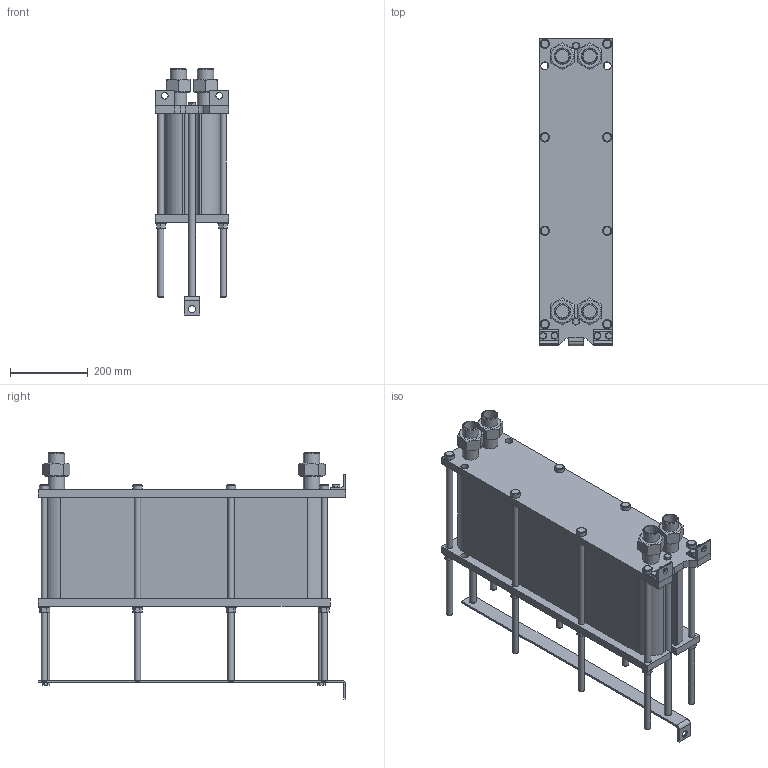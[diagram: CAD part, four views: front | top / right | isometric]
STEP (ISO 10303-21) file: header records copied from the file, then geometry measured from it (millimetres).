
FILE_DESCRIPTION(/* description */ (''),/* implementation_level */ '2;1');
FILE_NAME(/* name */ 'C:\Users\zhuro\Desktop\ENCO\TO\ЭН-008\ЭН-0,5-008-84-1.stp',/* time_stamp */ '2022-06-06T10:53:03+03:00',/* author */ ('zhuro'),/* organization */ (''),/* preprocessor_version */ 'ST-DEVELOPER v18.1',/* originating_system */ 'Autodesk Inventor 2022',/* authorisation */ '');
FILE_SCHEMA (('AUTOMOTIVE_DESIGN { 1 0 10303 214 3 1 1 }'));
Length unit declared in the file: millimetre
Products named in the file (1): ЭН-0,5-008-84-1
Bounding box: 190 x 790 x 632.2 mm (x, y, z)
Volume: 33447675.5 mm3; surface area: 1886183.5 mm2
Topology: 40 solids, 40 shells, 428 faces, 924 edges, 606 vertices
Faces by surface type: plane 273, cylinder 109, cone 40, torus 6
Full cylindrical faces by diameter (mm): 12 x6, 14 x2, 16 x20, 17 x8, 18 x19, 20 x5, 24 x8, 28 x8, 34.3 x8, 42.3 x8
Entity records: 15843 total; most frequent: CARTESIAN_POINT 5991, DIRECTION 1984, ORIENTED_EDGE 1848, EDGE_CURVE 924, AXIS2_PLACEMENT_3D 715, VERTEX_POINT 606, LINE 554, VECTOR 554
